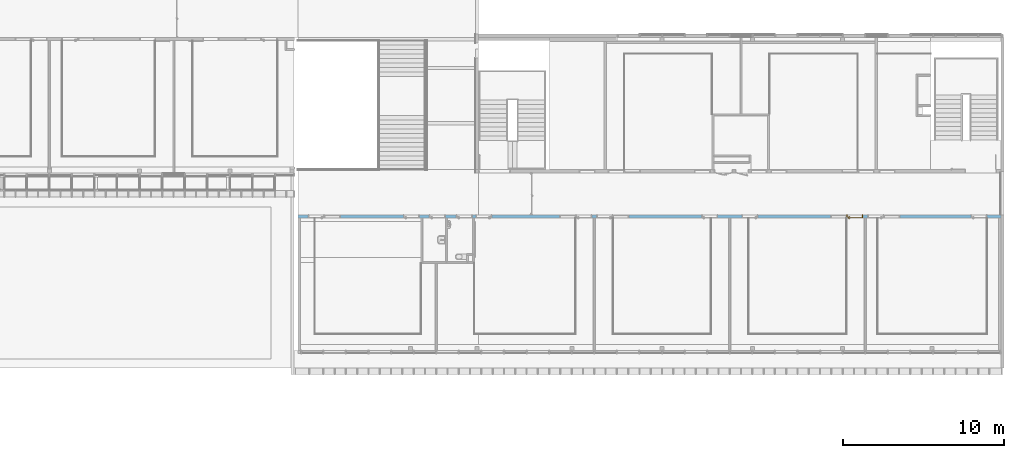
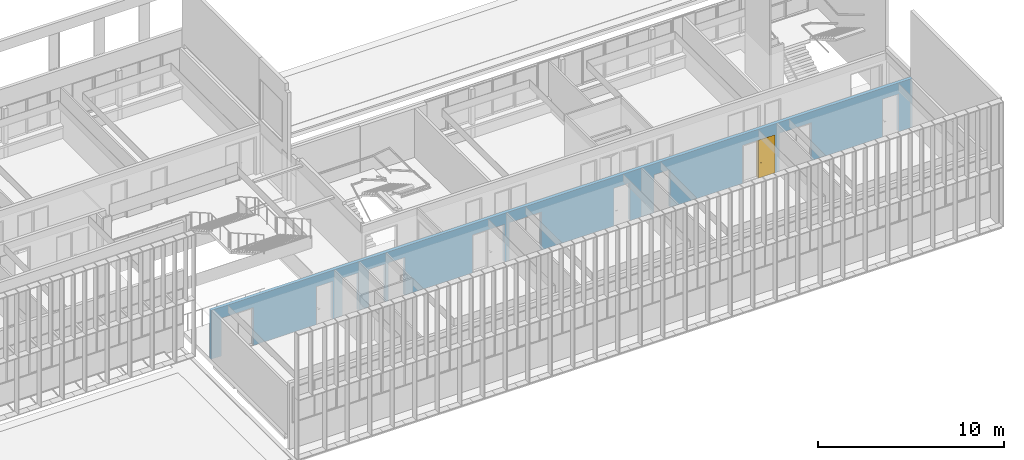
# One storey, part 68 of 106: 1 door, 18 openings, plus 1 element that does not belong to this part.
"""IFC2X3 building model written with IfcOpenShell, lengths in centimetres."""

from ifc_helpers import new_model, entity, si_unit, converted_unit, derived_unit, direction, frame, frame_2d, origin, place, context, subcontext, project, spatial, polyline, rectangle, extrude, clip, bounded_halfspace, faceted_brep, source, transform, mapped, material, material_list, layer, layer_set, layer_usage, type_object, type_shapes, element, fill, save


model = new_model("IFC2X3")

# Units and contexts
model_context = context("Model", 3, precision=0.001, world=origin(), true_north=direction((6.12303176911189e-17, 1.0)))
body_context = subcontext(model_context, "Body", "Model", "MODEL_VIEW")
ifc_project = project(units=[si_unit("LENGTHUNIT", "METRE", prefix="CENTI"), si_unit("AREAUNIT", "SQUARE_METRE"), si_unit("VOLUMEUNIT", "CUBIC_METRE"), converted_unit("PLANEANGLEUNIT", "DEGREE", entity("IfcRatioMeasure", 0.0174532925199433), si_unit("PLANEANGLEUNIT", "RADIAN"), dimensions=[0, 0, 0, 0, 0, 0, 0]), si_unit("MASSUNIT", "GRAM", prefix="KILO"), derived_unit("MASSDENSITYUNIT", [(si_unit("MASSUNIT", "GRAM", prefix="KILO"), 1), (si_unit("LENGTHUNIT", "METRE"), -3)]), si_unit("TIMEUNIT", "SECOND"), si_unit("FREQUENCYUNIT", "HERTZ"), si_unit("THERMODYNAMICTEMPERATUREUNIT", "DEGREE_CELSIUS"), derived_unit("THERMALTRANSMITTANCEUNIT", [(si_unit("MASSUNIT", "GRAM", prefix="KILO"), 1), (si_unit("THERMODYNAMICTEMPERATUREUNIT", "KELVIN"), -1), (si_unit("TIMEUNIT", "SECOND"), -3)]), derived_unit("VOLUMETRICFLOWRATEUNIT", [(si_unit("LENGTHUNIT", "METRE"), 3), (si_unit("TIMEUNIT", "SECOND"), -1)]), si_unit("ELECTRICCURRENTUNIT", "AMPERE"), si_unit("ELECTRICVOLTAGEUNIT", "VOLT"), si_unit("POWERUNIT", "WATT"), si_unit("FORCEUNIT", "NEWTON", prefix="KILO"), si_unit("ILLUMINANCEUNIT", "LUX"), si_unit("LUMINOUSFLUXUNIT", "LUMEN"), si_unit("LUMINOUSINTENSITYUNIT", "CANDELA"), derived_unit("USERDEFINED", [(si_unit("MASSUNIT", "GRAM", prefix="KILO"), -1), (si_unit("LENGTHUNIT", "METRE"), -2), (si_unit("TIMEUNIT", "SECOND"), 3), (si_unit("LUMINOUSFLUXUNIT", "LUMEN"), 1)]), derived_unit("LINEARVELOCITYUNIT", [(si_unit("LENGTHUNIT", "METRE"), 1), (si_unit("TIMEUNIT", "SECOND"), -1)]), si_unit("PRESSUREUNIT", "PASCAL"), derived_unit("USERDEFINED", [(si_unit("LENGTHUNIT", "METRE"), -2), (si_unit("MASSUNIT", "GRAM", prefix="KILO"), 1), (si_unit("TIMEUNIT", "SECOND"), -2)])], contexts=[model_context])

# Site, building, storey
site_placement = place(None, frame((-2781.94577612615, 7442.24238424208, 0.0)))
site = spatial("IfcSite", under=ifc_project, at=site_placement, Name="Default", CompositionType="ELEMENT")
building_placement = place(site_placement, origin())
building = spatial("IfcBuilding", under=site, at=building_placement, CompositionType="ELEMENT")
storey_placement = place(building_placement, frame((0.0, 0.0, 422.0)))
storey = spatial("IfcBuildingStorey", under=building, at=storey_placement, Name="Toiture - Cuisine", CompositionType="ELEMENT", Elevation=421.999999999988)

# Wall, openings, door
ifc_material_1 = material(Name="01 - Maçonnerie")
ifc_layer = layer(ifc_material_1, 20.0)
ifc_layer_set = layer_set([ifc_layer], Name="Mur de base:04 - Structure - béton - 20cm")
ifc_layer_usage = layer_usage(ifc_layer_set, "AXIS2", "NEGATIVE", 10.0)
wall_type = type_object("IfcWallType", Name="Mur de base:04 - Structure - béton - 20cm", PredefinedType="STANDARD", material=ifc_layer_set)
wall_placement = place(building_placement, frame((-4767.99987760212, -2200.15656731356, 422.0)))
wall = element("IfcWallStandardCase", 1, at=wall_placement, inside=storey, type_object=wall_type, material=ifc_layer_usage, Name="Mur de base:04 - Structure - béton - 20cm", ObjectType="Mur de base:04 - Structure - béton - 20cm", context=body_context, shape_type="Clipping", body=[
    clip(extrude(rectangle(XDim=4357.99999476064, YDim=19.9999999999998, at=frame_2d((2178.99999738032, -6.30606677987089e-14), x_axis=(-1.0, 0.0))), origin(), (0.0, 0.0, 1.0), 321.0), bounded_halfspace(frame((0.0, 10.0, 321.0), z_axis=(0.0, 0.0, -1.0), x_axis=(0.0, 1.0, 0.0)), True, frame((0.0, 10.0, 321.0)), polyline([(0.0, 0.0), (0.0, -20.0), (15.2999999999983, -20.0), (103.799999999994, -20.0), (105.799999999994, -20.0), (763.799999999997, -20.0), (773.799999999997, -20.0), (915.699994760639, -20.0), (925.699994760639, -20.0), (1082.69999476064, -20.0), (1092.69999476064, -20.0), (1720.69999476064, -20.0), (1722.69999476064, -20.0), (1832.69999476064, -20.0), (1842.69999476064, -20.0), (1952.69999476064, -20.0), (1954.69999476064, -20.0), (2560.69999476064, -20.0), (2562.69999476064, -20.0), (2672.69999476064, -20.0), (2682.69999476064, -20.0), (2792.69999476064, -20.0), (2794.69999476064, -20.0), (3400.69999476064, -20.0), (3402.69999476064, -20.0), (3512.69999476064, -20.0), (3522.69999476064, -20.0), (3592.69999476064, -20.0), (3594.69999476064, -20.0), (4270.69999476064, -20.0), (4272.69999476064, -20.0), (4342.69999476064, -20.0), (4358.0, -20.0), (4358.0, 0.0), (4356.0, 0.0), (1451.49999791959, 0.0), (1441.49999791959, 0.0), (1120.0, 0.0), (0.0, 0.0)]))),
])
opening_1_placement = place(wall_placement, origin())
element("IfcOpeningElement", 2, at=opening_1_placement, cuts=wall, Name="Mur de base:04 - Structure - béton - 20cm", ObjectType="Opening", context=body_context, shape_type="SweptSolid", body=[
    extrude(rectangle(XDim=270.0, YDim=20.0, at=frame_2d((0.0, 4.2632564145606e-14), x_axis=(0.0, 1.0))), frame((4368.0, 10.0, 135.0), z_axis=(0.0, 1.0, 0.0), x_axis=(1.0, 0.0, 0.0)), (0.0, 0.0, 1.0), 260.077533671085),
])
opening_2_placement = place(wall_placement, frame((4272.69999476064, 10.0, 0.0)))
element("IfcOpeningElement", 3, at=opening_2_placement, cuts=wall, Name="Int. Simple:PV (0.93m x 2.50m):1", ObjectType="Opening", context=body_context, shape_type="SweptSolid", body=[
    extrude(rectangle(XDim=248.500000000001, YDim=99.9999999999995, at=frame_2d((124.250000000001, 50.0), x_axis=(1.0, 0.0))), frame((0.0, 0.0, 0.0), z_axis=(0.0, -1.0, 0.0), x_axis=(0.0, 0.0, 1.0)), (0.0, 0.0, 1.0), 20.0),
])
opening_3_placement = place(wall_placement, frame((3632.69999476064, 10.0, 0.0)))
element("IfcOpeningElement", 4, at=opening_3_placement, cuts=wall, Name="Int. Simple:PV (0.93m x 2.50m):1", ObjectType="Opening", context=body_context, shape_type="SweptSolid", body=[
    extrude(rectangle(XDim=248.500000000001, YDim=99.9999999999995, at=frame_2d((124.250000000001, 49.9999999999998), x_axis=(1.0, 0.0))), frame((0.0, 0.0, 0.0), z_axis=(0.0, -1.0, 0.0), x_axis=(0.0, 0.0, 1.0)), (0.0, 0.0, 1.0), 20.0),
])
opening_4_placement = place(wall_placement, frame((3502.69999476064, 10.0, 0.0)))
opening_4 = element("IfcOpeningElement", 5, at=opening_4_placement, cuts=wall, Name="Int. Simple:PV (0.93m x 2.50m):1", ObjectType="Opening", context=body_context, shape_type="SweptSolid", body=[
    extrude(rectangle(XDim=248.500000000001, YDim=99.9999999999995, at=frame_2d((124.250000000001, 49.9999999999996), x_axis=(1.0, 0.0))), frame((0.0, 0.0, 0.0), z_axis=(0.0, -1.0, 0.0), x_axis=(0.0, 0.0, 1.0)), (0.0, 0.0, 1.0), 20.0),
])
opening_5_placement = place(wall_placement, frame((2852.69999476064, 10.0, 0.0)))
element("IfcOpeningElement", 6, at=opening_5_placement, cuts=wall, Name="Int. Simple:PV (0.93m x 2.50m):1", ObjectType="Opening", context=body_context, shape_type="SweptSolid", body=[
    extrude(rectangle(XDim=248.500000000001, YDim=99.9999999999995, at=frame_2d((124.250000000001, 49.9999999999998), x_axis=(1.0, 0.0))), frame((0.0, 0.0, 0.0), z_axis=(0.0, -1.0, 0.0), x_axis=(0.0, 0.0, 1.0)), (0.0, 0.0, 1.0), 20.0),
])
opening_6_placement = place(wall_placement, frame((2602.69999476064, 10.0, 0.0)))
element("IfcOpeningElement", 7, at=opening_6_placement, cuts=wall, Name="Int. Simple:PV (0.93m x 2.50m):1", ObjectType="Opening", context=body_context, shape_type="SweptSolid", body=[
    extrude(rectangle(XDim=248.500000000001, YDim=99.9999999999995, at=frame_2d((124.250000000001, 49.9999999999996), x_axis=(1.0, 0.0))), frame((0.0, 0.0, 0.0), z_axis=(0.0, -1.0, 0.0), x_axis=(0.0, 0.0, 1.0)), (0.0, 0.0, 1.0), 20.0),
])
opening_7_placement = place(wall_placement, frame((1952.69999476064, 10.0, 0.0)))
element("IfcOpeningElement", 8, at=opening_7_placement, cuts=wall, Name="Int. Simple:PV (0.93m x 2.50m):1", ObjectType="Opening", context=body_context, shape_type="SweptSolid", body=[
    extrude(rectangle(XDim=248.500000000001, YDim=99.9999999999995, at=frame_2d((124.250000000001, 49.9999999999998), x_axis=(1.0, 0.0))), frame((0.0, 0.0, 0.0), z_axis=(0.0, -1.0, 0.0), x_axis=(0.0, 0.0, 1.0)), (0.0, 0.0, 1.0), 20.0),
])
opening_8_placement = place(wall_placement, frame((1822.69999476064, 10.0, 0.0)))
element("IfcOpeningElement", 9, at=opening_8_placement, cuts=wall, Name="Int. Simple:PV (0.93m x 2.50m):1", ObjectType="Opening", context=body_context, shape_type="SweptSolid", body=[
    extrude(rectangle(XDim=248.500000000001, YDim=99.9999999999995, at=frame_2d((124.250000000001, 49.9999999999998), x_axis=(1.0, 0.0))), frame((0.0, 0.0, 0.0), z_axis=(0.0, -1.0, 0.0), x_axis=(0.0, 0.0, 1.0)), (0.0, 0.0, 1.0), 20.0),
])
opening_9_placement = place(wall_placement, frame((1202.69999476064, 10.0, 0.0)))
element("IfcOpeningElement", 10, at=opening_9_placement, cuts=wall, Name="Int. Simple:PV (0.93m x 2.50m):1", ObjectType="Opening", context=body_context, shape_type="SweptSolid", body=[
    extrude(rectangle(XDim=248.500000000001, YDim=99.9999999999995, at=frame_2d((124.250000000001, 49.9999999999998), x_axis=(1.0, 0.0))), frame((0.0, 0.0, 0.0), z_axis=(0.0, -1.0, 0.0), x_axis=(0.0, 0.0, 1.0)), (0.0, 0.0, 1.0), 20.0),
])
opening_10_placement = place(wall_placement, frame((1081.19999476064, 10.0, 0.0)))
element("IfcOpeningElement", 11, at=opening_10_placement, cuts=wall, Name="Int. Simple:PP simple (0.93m x 2.50m):1", ObjectType="Opening", context=body_context, shape_type="SweptSolid", body=[
    extrude(rectangle(XDim=248.500000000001, YDim=99.9999999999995, at=frame_2d((124.250000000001, 49.9999999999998), x_axis=(1.0, 0.0))), frame((0.0, 0.0, 0.0), z_axis=(0.0, -1.0, 0.0), x_axis=(0.0, 0.0, 1.0)), (0.0, 0.0, 1.0), 20.0),
])
opening_11_placement = place(wall_placement, frame((753.799999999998, 10.0, 0.0)))
element("IfcOpeningElement", 12, at=opening_11_placement, cuts=wall, Name="Int. Simple:PV (0.93m x 2.50m):1", ObjectType="Opening", context=body_context, shape_type="SweptSolid", body=[
    extrude(rectangle(XDim=248.500000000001, YDim=99.9999999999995, at=frame_2d((124.250000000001, 50.0), x_axis=(1.0, 0.0))), frame((0.0, 0.0, 0.0), z_axis=(0.0, -1.0, 0.0), x_axis=(0.0, 0.0, 1.0)), (0.0, 0.0, 1.0), 20.0),
])
opening_12_placement = place(wall_placement, frame((163.799999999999, 10.0, 0.0)))
element("IfcOpeningElement", 13, at=opening_12_placement, cuts=wall, Name="Int. Simple:PV (0.93m x 2.50m):1", ObjectType="Opening", context=body_context, shape_type="SweptSolid", body=[
    extrude(rectangle(XDim=248.500000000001, YDim=99.9999999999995, at=frame_2d((124.250000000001, 49.9999999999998), x_axis=(1.0, 0.0))), frame((0.0, 0.0, 0.0), z_axis=(0.0, -1.0, 0.0), x_axis=(0.0, 0.0, 1.0)), (0.0, 0.0, 1.0), 20.0),
])
opening_13_placement = place(wall_placement, frame((263.799999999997, 10.0, 0.0)))
element("IfcOpeningElement", 14, at=opening_13_placement, cuts=wall, Name="châssis intérieur vitré:châssis intérieur vitré (h=270) R+1:1", ObjectType="Opening", context=body_context, shape_type="SweptSolid", body=[
    extrude(rectangle(XDim=250.0, YDim=99.9999999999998, at=frame_2d((125.0, 49.9999999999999), x_axis=(1.0, 0.0))), frame((0.0, 0.0, 0.0), z_axis=(0.0, -1.0, 0.0), x_axis=(0.0, 0.0, 1.0)), (0.0, 0.0, 1.0), 20.0),
])
opening_14_placement = place(wall_placement, frame((1722.69999476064, 10.0, 0.0)))
element("IfcOpeningElement", 15, at=opening_14_placement, cuts=wall, Name="châssis intérieur vitré:châssis intérieur vitré (h=270) R+1:1", ObjectType="Opening", context=body_context, shape_type="SweptSolid", body=[
    extrude(rectangle(XDim=250.0, YDim=99.9999999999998, at=frame_2d((125.0, 49.9999999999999), x_axis=(1.0, 0.0))), frame((0.0, 0.0, 0.0), z_axis=(0.0, -1.0, 0.0), x_axis=(0.0, 0.0, 1.0)), (0.0, 0.0, 1.0), 20.0),
])
opening_15_placement = place(wall_placement, frame((2052.69999476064, 10.0, 0.0)))
element("IfcOpeningElement", 16, at=opening_15_placement, cuts=wall, Name="châssis intérieur vitré:châssis intérieur vitré (h=270) R+1:1", ObjectType="Opening", context=body_context, shape_type="SweptSolid", body=[
    extrude(rectangle(XDim=250.0, YDim=99.9999999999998, at=frame_2d((125.0, 49.9999999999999), x_axis=(1.0, 0.0))), frame((0.0, 0.0, 0.0), z_axis=(0.0, -1.0, 0.0), x_axis=(0.0, 0.0, 1.0)), (0.0, 0.0, 1.0), 20.0),
])
opening_16_placement = place(wall_placement, frame((3402.69999476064, 10.0, 0.0)))
element("IfcOpeningElement", 17, at=opening_16_placement, cuts=wall, Name="châssis intérieur vitré:châssis intérieur vitré (h=270) R+1:1", ObjectType="Opening", context=body_context, shape_type="SweptSolid", body=[
    extrude(rectangle(XDim=250.0, YDim=99.9999999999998, at=frame_2d((125.0, 49.9999999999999), x_axis=(1.0, 0.0))), frame((0.0, 0.0, 0.0), z_axis=(0.0, -1.0, 0.0), x_axis=(0.0, 0.0, 1.0)), (0.0, 0.0, 1.0), 20.0),
])
opening_17_placement = place(wall_placement, frame((3732.69999476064, 10.0, 0.0)))
element("IfcOpeningElement", 18, at=opening_17_placement, cuts=wall, Name="châssis intérieur vitré:châssis intérieur vitré (h=270) R+1:1", ObjectType="Opening", context=body_context, shape_type="SweptSolid", body=[
    extrude(rectangle(XDim=250.0, YDim=99.9999999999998, at=frame_2d((125.0, 49.9999999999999), x_axis=(1.0, 0.0))), frame((0.0, 0.0, 0.0), z_axis=(0.0, -1.0, 0.0), x_axis=(0.0, 0.0, 1.0)), (0.0, 0.0, 1.0), 20.0),
])
opening_18_placement = place(wall_placement, frame((914.199994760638, 10.0, 0.0)))
element("IfcOpeningElement", 19, at=opening_18_placement, cuts=wall, Name="Int. Simple:PP simple (0.93m x 2.50m):1", ObjectType="Opening", context=body_context, shape_type="SweptSolid", body=[
    extrude(rectangle(XDim=248.500000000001, YDim=99.9999999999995, at=frame_2d((124.250000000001, 50.0), x_axis=(1.0, 0.0))), frame((0.0, 0.0, 0.0), z_axis=(0.0, -1.0, 0.0), x_axis=(0.0, 0.0, 1.0)), (0.0, 0.0, 1.0), 20.0),
])
ifc_material_2 = material(Name="Finition Peinture - Blanc satiné")
ifc_material_3 = material(Name="Bois - Panneau de porte")
ifc_material_4 = material(Name="Bois - Cadre de porte")
ifc_material_list_1 = material_list([ifc_material_2, ifc_material_3, ifc_material_4])
ifc_material_list_2 = material_list([ifc_material_2, ifc_material_3, ifc_material_4])
door_style = type_object("IfcDoorStyle", Name="PV (0.93m x 2.50m)", ConstructionType="NOTDEFINED", OperationType="SINGLE_SWING_LEFT", ParameterTakesPrecedence=False, Sizeable=False, material=ifc_material_list_2)
shared_shape = source(origin(), body_context, "Body", "Brep", [
    faceted_brep([(10.5352761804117, -0.500000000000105, 86.6003983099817), (11.5000000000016, -0.500000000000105, 87.0), (11.5000000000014, -0.500000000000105, 108.0), (10.5352761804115, -0.500000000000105, 108.399601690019), (9.50000000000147, -0.500000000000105, 108.535898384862), (8.46472381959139, -0.500000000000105, 108.399601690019), (7.50000000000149, -0.500000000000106, 108.0), (7.50000000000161, -0.500000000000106, 87.0), (8.46472381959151, -0.500000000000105, 86.6003983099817), (9.50000000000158, -0.500000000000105, 86.464101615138), (10.5352761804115, 0.0, 108.399601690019), (11.5000000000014, 0.0, 108.0), (11.5000000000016, 0.0, 87.0), (10.5352761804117, 0.0, 86.6003983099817), (9.50000000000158, 0.0, 86.464101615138), (8.46472381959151, 0.0, 86.6003983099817), (7.50000000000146, 0.0, 87.0), (7.50000000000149, 0.0, 108.0), (8.46472381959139, 0.0, 108.399601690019), (9.50000000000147, 0.0, 108.535898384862)], [[[0, 1, 2, 3, 4, 5, 6, 7, 8, 9]], [[10, 11, 12, 13, 14, 15, 16, 17, 18, 19]], [[16, 15, 8, 7]], [[8, 15, 14, 9]], [[14, 13, 0, 9]], [[13, 12, 1, 0]], [[2, 1, 12, 11]], [[11, 10, 3, 2]], [[3, 10, 19, 4]], [[19, 18, 5, 4]], [[18, 17, 6, 5]], [[7, 6, 17, 16]]]),
    faceted_brep([(10.5352761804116, 4.0, 86.6003983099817), (11.5000000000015, 4.0, 87.0), (11.5000000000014, 4.0, 108.0), (10.5352761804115, 4.0, 108.399601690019), (9.50000000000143, 4.0, 108.535898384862), (8.46472381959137, 4.0, 108.399601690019), (7.50000000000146, 4.0, 108.0), (7.50000000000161, 4.0, 87.0), (8.46472381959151, 4.0, 86.6003983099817), (9.50000000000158, 4.0, 86.464101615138), (10.5352761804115, 4.49999999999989, 108.399601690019), (11.5000000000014, 4.49999999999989, 108.0), (11.5000000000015, 4.49999999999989, 87.0), (10.5352761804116, 4.49999999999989, 86.6003983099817), (9.50000000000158, 4.49999999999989, 86.464101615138), (8.46472381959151, 4.49999999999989, 86.6003983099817), (7.50000000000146, 4.49999999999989, 87.0), (7.50000000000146, 4.49999999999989, 108.0), (8.46472381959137, 4.49999999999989, 108.399601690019), (9.50000000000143, 4.49999999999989, 108.535898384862)], [[[0, 1, 2, 3, 4, 5, 6, 7, 8, 9]], [[10, 11, 12, 13, 14, 15, 16, 17, 18, 19]], [[11, 10, 3, 2]], [[3, 10, 19, 4]], [[19, 18, 5, 4]], [[18, 17, 6, 5]], [[7, 6, 17, 16]], [[16, 15, 8, 7]], [[8, 15, 14, 9]], [[14, 13, 0, 9]], [[13, 12, 1, 0]], [[2, 1, 12, 11]]]),
    faceted_brep([(9.29747013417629, -0.500000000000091, 100.778044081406), (9.70252986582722, -0.500000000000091, 100.778044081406), (10.1000000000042, -0.500000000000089, 100.699999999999), (10.1000000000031, -0.500000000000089, 99.3000000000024), (9.7025298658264, -0.500000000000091, 99.2219559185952), (9.29747013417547, -0.500000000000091, 99.221955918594), (8.8999999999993, -0.500000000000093, 99.2999999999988), (8.89999999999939, -0.500000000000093, 100.7), (8.89999999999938, -3.26509507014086, 100.7), (9.29747013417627, -3.10045754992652, 100.778044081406), (10.9023585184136, -4.70534593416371, 100.778044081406), (11.0701397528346, -4.30028620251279, 100.778044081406), (9.7025298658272, -2.93267631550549, 100.778044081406), (10.1000000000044, -2.76803879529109, 100.7), (10.1000000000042, -2.76803879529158, 99.3000000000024), (9.7025298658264, -2.93267631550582, 99.2219559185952), (11.0701397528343, -4.30028620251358, 99.2219559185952), (10.9023585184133, -4.70534593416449, 99.221955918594), (9.29747013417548, -3.10045754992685, 99.221955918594), (8.89999999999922, -3.26509507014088, 99.2999999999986), (10.7377209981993, -5.10281606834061, 100.7), (11.2347772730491, -3.90281606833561, 100.7), (11.2347772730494, -3.90281606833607, 99.3000000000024), (10.7377209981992, -5.10281606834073, 99.2999999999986), (19.5018640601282, -5.1028160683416, 99.2999999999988), (19.5018640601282, -4.70534593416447, 99.221955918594), (19.5018640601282, -4.30028620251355, 99.2219559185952), (19.5018640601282, -3.90281606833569, 99.3000000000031), (19.5018640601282, -3.90281606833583, 100.7), (19.5018640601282, -4.30028620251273, 100.778044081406), (19.5018640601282, -4.70534593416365, 100.778044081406), (19.5018640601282, -5.10281606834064, 100.699999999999), (14.7307697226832, -5.10281606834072, 100.7), (15.2860019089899, -4.5028160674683, 100.78786867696), (15.3683206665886, -3.9028160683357, 100.7), (15.3683206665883, -3.90281606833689, 99.3000000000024), (15.2860018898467, -4.50281607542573, 99.2121313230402), (14.7307700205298, -5.10281606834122, 99.2999999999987)], [[[0, 1, 2, 3, 4, 5, 6, 7]], [[8, 9, 0, 7]], [[9, 10, 11, 12, 1, 0]], [[12, 13, 2, 1]], [[3, 2, 13, 14]], [[14, 15, 4, 3]], [[15, 16, 17, 18, 5, 4]], [[18, 19, 6, 5]], [[7, 6, 19, 8]], [[20, 10, 9, 8]], [[11, 21, 13, 12]], [[14, 13, 21, 22]], [[22, 16, 15, 14]], [[17, 23, 19, 18]], [[8, 19, 23, 20]], [[24, 25, 26, 27, 28, 29, 30, 31]], [[32, 30, 33]], [[31, 30, 32]], [[10, 20, 32]], [[33, 34, 11]], [[21, 11, 34]], [[34, 29, 28]], [[30, 29, 33]], [[29, 34, 33]], [[10, 32, 33]], [[10, 33, 11]], [[22, 21, 34, 28, 27, 35]], [[35, 26, 36]], [[37, 36, 25]], [[22, 35, 16]], [[35, 27, 26]], [[24, 37, 25]], [[23, 17, 37]], [[37, 17, 36]], [[17, 16, 36]], [[16, 35, 36]], [[25, 36, 26]], [[20, 23, 37, 24, 31, 32]]]),
    faceted_brep([(9.29747013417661, 4.49999999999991, 100.778044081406), (8.89999999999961, 4.4999999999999, 100.7), (8.89999999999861, 4.4999999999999, 99.2999999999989), (9.29747013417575, 4.49999999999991, 99.221955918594), (9.70252986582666, 4.49999999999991, 99.2219559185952), (10.1000000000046, 4.49999999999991, 99.3000000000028), (10.1000000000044, 4.49999999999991, 100.7), (9.70252986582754, 4.49999999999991, 100.778044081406), (10.1000000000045, 6.7485204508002, 99.3000000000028), (10.1000000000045, 6.74852045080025, 100.7), (9.70252986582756, 6.91315797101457, 100.778044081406), (11.083890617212, 8.29451872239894, 100.778044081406), (10.916109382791, 8.69957845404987, 100.778044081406), (9.29747013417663, 7.0809392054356, 100.778044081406), (8.89999999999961, 7.24557672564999, 100.7), (8.89999999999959, 7.2455767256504, 99.2999999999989), (9.29747013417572, 7.08093920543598, 99.221955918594), (10.9161093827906, 8.69957845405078, 99.221955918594), (11.0838906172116, 8.29451872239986, 99.2219559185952), (9.70252986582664, 6.91315797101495, 99.2219559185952), (11.2485281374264, 7.89704858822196, 99.3000000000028), (11.2485281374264, 7.89704858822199, 100.7), (10.7514718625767, 9.09704858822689, 100.7), (10.7514718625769, 9.0970485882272, 99.2999999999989), (19.5045783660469, 7.89704858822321, 99.3000000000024), (19.5045783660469, 8.29451872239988, 99.2219559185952), (19.5045783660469, 8.6995784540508, 99.221955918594), (19.5045783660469, 9.09704858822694, 99.2999999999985), (19.5045783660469, 9.09704858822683, 100.7), (19.5045783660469, 8.69957845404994, 100.778044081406), (19.5045783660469, 8.29451872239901, 100.778044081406), (19.5045783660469, 7.89704858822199, 100.7), (15.3765520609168, 7.89704858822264, 99.3000000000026), (15.3765532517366, 7.89704858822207, 100.7), (15.294234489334, 8.49704858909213, 100.78786867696), (14.7445205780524, 9.09704858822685, 100.7), (14.7445204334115, 9.09704858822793, 99.2999999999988), (15.2942345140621, 8.49704858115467, 99.2121313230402)], [[[0, 1, 2, 3, 4, 5, 6, 7]], [[6, 5, 8, 9]], [[9, 10, 7, 6]], [[10, 11, 12, 13, 0, 7]], [[13, 14, 1, 0]], [[2, 1, 14, 15]], [[15, 16, 3, 2]], [[16, 17, 18, 19, 4, 3]], [[19, 8, 5, 4]], [[9, 8, 20, 21]], [[21, 11, 10, 9]], [[12, 22, 14, 13]], [[15, 14, 22, 23]], [[23, 17, 16, 15]], [[18, 20, 8, 19]], [[24, 25, 26, 27, 28, 29, 30, 31]], [[21, 20, 32, 24, 31, 33]], [[33, 30, 34]], [[35, 34, 29]], [[21, 33, 11]], [[33, 31, 30]], [[28, 35, 29]], [[22, 12, 35]], [[35, 12, 34]], [[12, 11, 34]], [[11, 33, 34]], [[29, 34, 30]], [[22, 35, 28, 27, 36, 23]], [[36, 26, 37]], [[27, 26, 36]], [[17, 23, 36]], [[37, 32, 18]], [[20, 18, 32]], [[32, 25, 24]], [[26, 25, 37]], [[25, 32, 37]], [[17, 36, 37]], [[17, 37, 18]]]),
    faceted_brep([(3.50000000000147, 4.0, 245.0), (96.5000000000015, 4.0, 245.0), (96.5000000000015, 4.0, 0.0), (3.50000000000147, 4.0, 0.0), (3.50000000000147, 0.0, 245.0), (3.50000000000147, 0.0, 0.0), (96.5000000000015, 0.0, 0.0), (96.5000000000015, 0.0, 245.0)], [[[0, 1, 2, 3]], [[4, 5, 6, 7]], [[1, 0, 4, 7]], [[2, 1, 7, 6]], [[3, 2, 6, 5]], [[0, 3, 5, 4]]]),
    faceted_brep([(0.0, 20.0, 0.0), (-1.50000000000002, 20.0, 0.0), (-1.50000000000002, 20.5000000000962, 0.0), (5.0, 20.5000000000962, 0.0), (5.0, 4.0, 0.0), (3.50000000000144, 4.0, 0.0), (3.50000000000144, -0.500000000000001, 0.0), (-1.50000000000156, -0.500000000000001, 0.0), (-1.50000000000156, 0.0, 0.0), (0.0, 0.0, 0.0), (0.0, 20.0, 248.500000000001), (100.0, 20.0, 248.500000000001), (100.0, 20.0, 0.0), (101.5, 20.0, 0.0), (101.5, 20.0, 250.0), (-1.50000000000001, 20.0, 250.0), (-1.50000000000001, 20.5000000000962, 250.0), (101.5, 20.5000000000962, 250.0), (101.5, 20.5000000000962, 0.0), (95.0, 20.5000000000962, 0.0), (95.0, 20.5000000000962, 243.5), (5.0, 20.5000000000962, 243.5), (5.0, 4.0, 243.5), (95.0, 4.0, 243.5), (95.0, 4.0, 0.0), (96.499999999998, 4.0, 0.0), (96.499999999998, 4.0, 245.0), (3.50000000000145, 4.0, 245.0), (3.50000000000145, -0.500000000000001, 245.0), (96.499999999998, -0.500000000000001, 245.0), (96.499999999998, -0.500000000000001, 0.0), (101.500000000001, -0.500000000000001, 0.0), (101.500000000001, -0.500000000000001, 250.0), (-1.50000000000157, -0.500000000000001, 250.0), (-1.50000000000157, 0.0, 250.0), (101.500000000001, 0.0, 250.0), (101.500000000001, 0.0, 0.0), (100.0, 0.0, 0.0), (100.0, 0.0, 248.500000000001), (0.0, 0.0, 248.500000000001)], [[[0, 1, 2, 3, 4, 5, 6, 7, 8, 9]], [[1, 0, 10, 11, 12, 13, 14, 15]], [[2, 1, 15, 16]], [[3, 2, 16, 17, 18, 19, 20, 21]], [[3, 21, 22, 4]], [[5, 4, 22, 23, 24, 25, 26, 27]], [[5, 27, 28, 6]], [[7, 6, 28, 29, 30, 31, 32, 33]], [[8, 7, 33, 34]], [[9, 8, 34, 35, 36, 37, 38, 39]], [[0, 9, 39, 10]], [[11, 38, 37, 12]], [[12, 37, 36, 31, 30, 25, 24, 19, 18, 13]], [[17, 14, 13, 18]], [[23, 20, 19, 24]], [[29, 26, 25, 30]], [[35, 32, 31, 36]], [[16, 15, 14, 17]], [[22, 21, 20, 23]], [[28, 27, 26, 29]], [[34, 33, 32, 35]], [[10, 39, 38, 11]]]),
])
type_shapes(door_style, [shared_shape])
door_placement = place(opening_4_placement, frame((-100.0, -20.0, 0.0)))
door = element("IfcDoor", 20, at=door_placement, inside=storey, type_object=door_style, material=ifc_material_list_1, Name="Int. Simple:PV (0.93m x 2.50m)", ObjectType="Int. Simple:PV (0.93m x 2.50m)", OverallHeight=248.500000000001, OverallWidth=99.9999999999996, context=body_context, shape_type="MappedRepresentation", body=[
    mapped(shared_shape, transform((0.0, 0.0, 0.0), scale=1.0)),
])
fill(opening_4, door)

save(model, "model.ifc")
